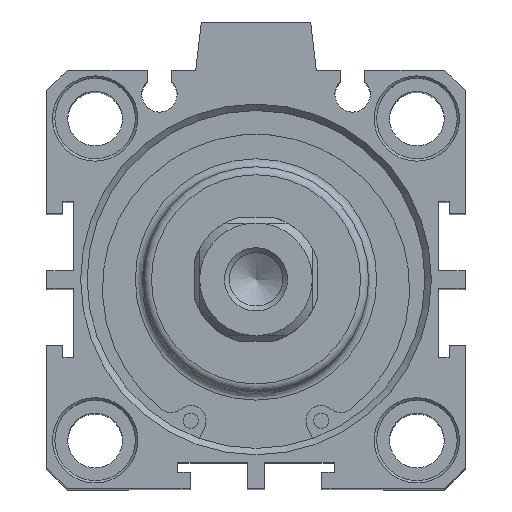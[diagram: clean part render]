
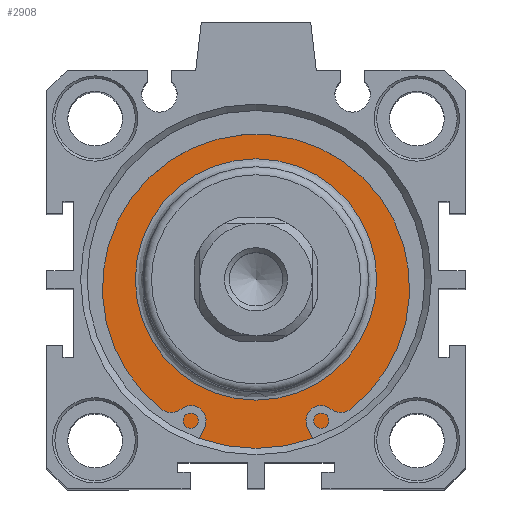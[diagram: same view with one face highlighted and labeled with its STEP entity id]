
A CAD part, top view. The second image highlights one B-rep face of the part: STEP entity #2908.
In plain terms, the highlighted planar face has unit normal (0, 0, 1).
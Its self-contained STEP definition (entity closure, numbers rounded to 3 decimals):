
#2857=CARTESIAN_POINT('',(0.598,16.555,97.4));
#2858=VERTEX_POINT('',#2857);
#2859=CARTESIAN_POINT('',(0.598,1.555,97.4));
#2860=DIRECTION('',(0.0,0.0,1.0));
#2861=DIRECTION('',(0.0,-1.0,0.0));
#2862=AXIS2_PLACEMENT_3D('',#2859,#2860,#2861);
#2863=CIRCLE('',#2862,15.);
#2864=EDGE_CURVE('',#2858,#2858,#2863,.T.);
#2889=CARTESIAN_POINT('',(0.598,19.055,97.4));
#2890=DIRECTION('',(0.0,0.0,1.0));
#2891=DIRECTION('',(1.0,0.0,0.0));
#2892=AXIS2_PLACEMENT_3D('',#2889,#2890,#2891);
#2893=PLANE('',#2892);
#2894=CARTESIAN_POINT('',(0.598,22.555,97.4));
#2895=VERTEX_POINT('',#2894);
#2896=CARTESIAN_POINT('',(0.598,1.555,97.4));
#2897=DIRECTION('',(0.0,0.0,-1.0));
#2898=DIRECTION('',(0.0,1.0,0.0));
#2899=AXIS2_PLACEMENT_3D('',#2896,#2897,#2898);
#2900=CIRCLE('',#2899,21.);
#2901=EDGE_CURVE('',#2895,#2895,#2900,.T.);
#2902=ORIENTED_EDGE('',*,*,#2901,.F.);
#2903=EDGE_LOOP('',(#2902));
#2904=FACE_OUTER_BOUND('',#2903,.T.);
#2905=ORIENTED_EDGE('',*,*,#2864,.F.);
#2906=EDGE_LOOP('',(#2905));
#2907=FACE_BOUND('',#2906,.T.);
#2908=ADVANCED_FACE('',(#2904,#2907),#2893,.T.);
